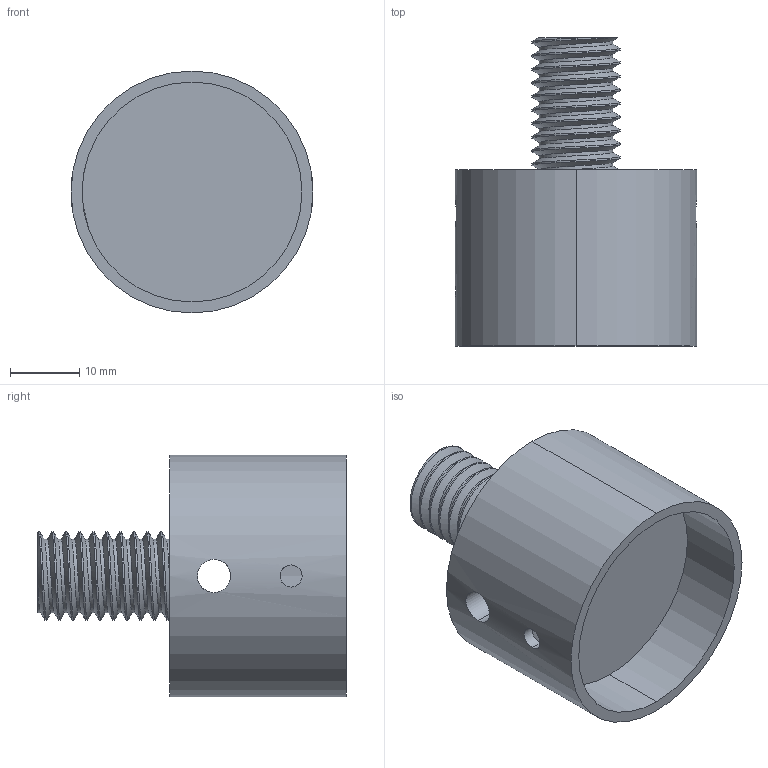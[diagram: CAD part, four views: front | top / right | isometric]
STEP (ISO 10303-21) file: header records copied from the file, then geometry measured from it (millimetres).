
FILE_DESCRIPTION (( 'STEP AP203' ), '1' );
FILE_NAME ('Blind Seal Holder.STEP', '2020-02-22T02:37:17', ( '' ), ( '' ), 'SwSTEP 2.0', 'SolidWorks 2017', '' );
FILE_SCHEMA (( 'CONFIG_CONTROL_DESIGN' ));
Length unit declared in the file: inch
Products named in the file (1): Blind Seal Holder
Bounding box: 34.87 x 44.45 x 34.87 mm (x, y, z)
Volume: 18083 mm3; surface area: 7307.3 mm2
Topology: 1 solids, 1 shells, 38 faces, 101 edges, 66 vertices
Faces by surface type: cylinder 29, plane 5, bspline 4
Entity records: 4249 total; most frequent: CARTESIAN_POINT 3390, ORIENTED_EDGE 202, DIRECTION 122, EDGE_CURVE 101, VERTEX_POINT 66, AXIS2_PLACEMENT_3D 47, EDGE_LOOP 43, FACE_OUTER_BOUND 38
